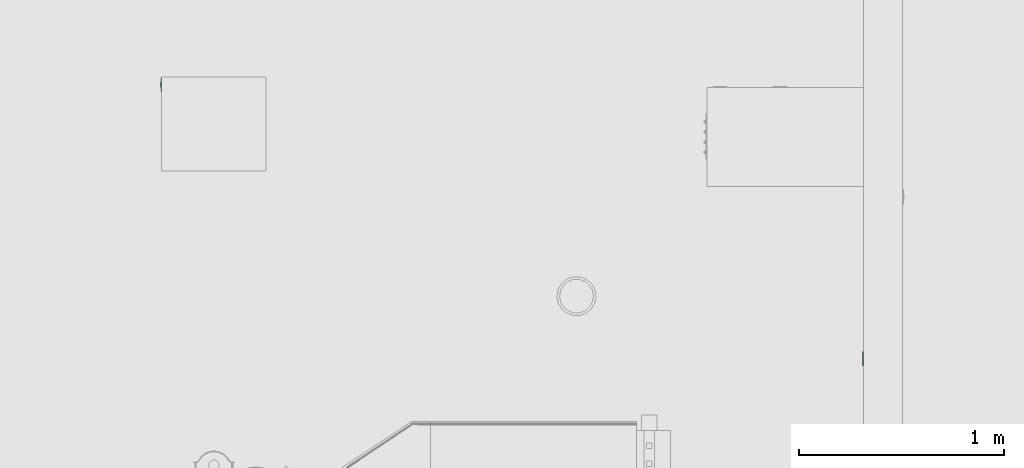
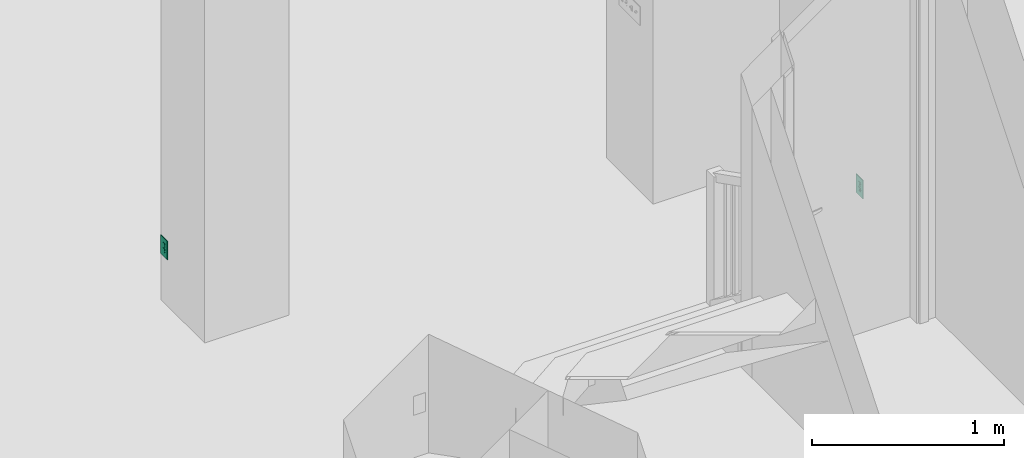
# One storey, part 6 of 48: 2 flow controllers.
"""IFC2X3 building model written with IfcOpenShell, lengths in inches."""

from ifc_helpers import new_model, entity, si_unit, converted_unit, derived_unit, money_unit, direction, frame, origin_with_axes, place, context, subcontext, project, spatial, faceted_brep, source, transform, mapped, type_object, element, save


model = new_model("IFC2X3")

# Units and contexts
model_context = context("Model", 3, precision=0.00039370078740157, world=origin_with_axes(), true_north=direction((0.0, 1.0)))
plan_context = context("Plan", 3, precision=0.00039370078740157, world=origin_with_axes(), true_north=direction((0.0, 1.0)))
body_context = subcontext(model_context, "Body", "Model", "MODEL_VIEW")
ifc_project = project(units=[converted_unit("LENGTHUNIT", "INCH", entity("IfcPositiveLengthMeasure", 0.0254), si_unit("LENGTHUNIT", "METRE"), dimensions=[1, 0, 0, 0, 0, 0, 0]), converted_unit("AREAUNIT", "SQUARE_FOOT", entity("IfcPositiveLengthMeasure", 0.09290304), si_unit("AREAUNIT", "SQUARE_METRE"), dimensions=[2, 0, 0, 0, 0, 0, 0]), si_unit("PLANEANGLEUNIT", "RADIAN"), si_unit("SOLIDANGLEUNIT", "STERADIAN"), money_unit("USD"), converted_unit("TIMEUNIT", "Year", entity("IfcTimeMeasure", 31557600.0), si_unit("TIMEUNIT", "SECOND"), dimensions=[0, 0, 1, 0, 0, 0, 0]), si_unit("MASSUNIT", "GRAM", prefix="KILO"), si_unit("THERMODYNAMICTEMPERATUREUNIT", "DEGREE_CELSIUS"), si_unit("LUMINOUSINTENSITYUNIT", "LUMEN"), si_unit("ENERGYUNIT", "JOULE", prefix="MEGA"), derived_unit("SPECIFICHEATCAPACITYUNIT", [(si_unit("ENERGYUNIT", "JOULE"), 1), (si_unit("MASSUNIT", "GRAM", prefix="KILO"), -1), (si_unit("THERMODYNAMICTEMPERATUREUNIT", "KELVIN"), -1)])], contexts=[model_context, plan_context])

# Site, building, storey
site_placement = place(None, origin_with_axes())
site = spatial("IfcSite", under=ifc_project, at=site_placement, Name="Site", CompositionType="ELEMENT")
building_placement = place(site_placement, origin_with_axes())
building = spatial("IfcBuilding", under=site, at=building_placement, Name="Building", CompositionType="ELEMENT")
storey_placement = place(building_placement, origin_with_axes())
storey = spatial("IfcBuildingStorey", under=building, at=storey_placement, Name="First Floor", CompositionType="ELEMENT", Elevation=0.0)

# Flow controllers
switching_device_type = type_object("IfcSwitchingDeviceType", Name="Outlet 1 US", PredefinedType="NOTDEFINED")
shared_shape = source(origin_with_axes(), body_context, "Body", "Brep", [
    faceted_brep([(0.39370078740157, -0.03444881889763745, -1.18110236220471), (0.5436477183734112, -0.03444881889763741, -0.7086614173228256), (0.5436477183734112, -0.2165354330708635, -0.7086614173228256), (0.39370078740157, -0.2165354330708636, -1.18110236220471), (-0.3937007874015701, -0.03444881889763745, -1.181102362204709), (-0.543647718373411, -0.03444881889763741, -0.7086614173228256), (-0.39370078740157, -0.03444881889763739, -0.2362204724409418), (0.3937007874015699, -0.03444881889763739, -0.2362204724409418), (-0.196850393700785, -0.03444881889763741, -0.7086614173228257), (-0.196850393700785, -0.0344488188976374, -0.4724409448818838), (-0.275590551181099, -0.0344488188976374, -0.4724409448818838), (-0.275590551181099, -0.03444881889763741, -0.7086614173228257), (0.196850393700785, -0.03444881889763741, -0.7086614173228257), (0.275590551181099, -0.03444881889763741, -0.7086614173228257), (0.275590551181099, -0.0344488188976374, -0.4724409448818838), (0.196850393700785, -0.0344488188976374, -0.4724409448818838), (-0.078740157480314, -0.03444881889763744, -1.102362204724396), (0.078740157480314, -0.03444881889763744, -1.102362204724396), (0.078740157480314, -0.03444881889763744, -1.023622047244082), (0.06819097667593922, -0.03444881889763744, -0.9842519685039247), (0.03937007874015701, -0.03444881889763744, -0.9554310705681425), (0.0, -0.03444881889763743, -0.9448818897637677), (-0.03937007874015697, -0.03444881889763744, -0.9554310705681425), (-0.06819097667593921, -0.03444881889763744, -0.9842519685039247), (-0.078740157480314, -0.03444881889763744, -1.023622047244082), (0.3937007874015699, -0.2165354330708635, -0.2362204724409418), (-0.39370078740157, -0.2165354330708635, -0.2362204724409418), (-0.543647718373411, -0.2165354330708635, -0.7086614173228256), (-0.3937007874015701, -0.2165354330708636, -1.181102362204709), (-0.196850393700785, -0.2165354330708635, -0.7086614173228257), (-0.275590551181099, -0.2165354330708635, -0.7086614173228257), (-0.275590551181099, -0.2165354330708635, -0.4724409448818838), (-0.196850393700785, -0.2165354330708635, -0.4724409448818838), (0.196850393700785, -0.2165354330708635, -0.7086614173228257), (0.196850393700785, -0.2165354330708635, -0.4724409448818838), (0.275590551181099, -0.2165354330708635, -0.4724409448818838), (0.275590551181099, -0.2165354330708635, -0.7086614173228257), (-0.078740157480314, -0.2165354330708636, -1.102362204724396), (-0.078740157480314, -0.2165354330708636, -1.023622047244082), (-0.06819097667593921, -0.2165354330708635, -0.9842519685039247), (-0.03937007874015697, -0.2165354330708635, -0.9554310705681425), (0.0, -0.2165354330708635, -0.9448818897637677), (0.03937007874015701, -0.2165354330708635, -0.9554310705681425), (0.06819097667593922, -0.2165354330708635, -0.9842519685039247), (0.078740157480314, -0.2165354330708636, -1.023622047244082), (0.078740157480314, -0.2165354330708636, -1.102362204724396)], [[[0, 1, 2, 3]], [[0, 4, 5, 6, 7, 1], [8, 9, 10, 11], [12, 13, 14, 15], [16, 17, 18, 19, 20, 21, 22, 23, 24]], [[1, 7, 25, 2]], [[3, 2, 25, 26, 27, 28], [29, 30, 31, 32], [33, 34, 35, 36], [37, 38, 39, 40, 41, 42, 43, 44, 45]], [[4, 0, 3, 28]], [[5, 4, 28, 27]], [[6, 5, 27, 26]], [[7, 6, 26, 25]], [[9, 8, 29, 32]], [[10, 9, 32, 31]], [[11, 10, 31, 30]], [[8, 11, 30, 29]], [[13, 12, 33, 36]], [[14, 13, 36, 35]], [[15, 14, 35, 34]], [[12, 15, 34, 33]], [[17, 16, 37, 45]], [[18, 17, 45, 44]], [[19, 18, 44, 43]], [[20, 19, 43, 42]], [[21, 20, 42, 41]], [[22, 21, 41, 40]], [[23, 22, 40, 39]], [[24, 23, 39, 38]], [[16, 24, 38, 37]]]),
    faceted_brep([(0.39370078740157, -0.03444881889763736, 0.2362204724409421), (0.5436477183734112, -0.03444881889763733, 0.7086614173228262), (0.5436477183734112, -0.2165354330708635, 0.7086614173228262), (0.39370078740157, -0.2165354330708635, 0.2362204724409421), (-0.3937007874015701, -0.03444881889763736, 0.2362204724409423), (-0.543647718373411, -0.03444881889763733, 0.7086614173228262), (-0.39370078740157, -0.0344488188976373, 1.18110236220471), (0.3937007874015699, -0.0344488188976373, 1.18110236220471), (-0.196850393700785, -0.03444881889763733, 0.7086614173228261), (-0.196850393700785, -0.03444881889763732, 0.944881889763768), (-0.275590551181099, -0.03444881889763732, 0.944881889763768), (-0.275590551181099, -0.03444881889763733, 0.7086614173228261), (0.196850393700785, -0.03444881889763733, 0.7086614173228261), (0.275590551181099, -0.03444881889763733, 0.7086614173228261), (0.275590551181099, -0.03444881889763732, 0.944881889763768), (0.196850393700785, -0.03444881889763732, 0.944881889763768), (-0.078740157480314, -0.03444881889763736, 0.3149606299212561), (0.078740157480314, -0.03444881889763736, 0.3149606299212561), (0.078740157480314, -0.03444881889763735, 0.3937007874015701), (0.06819097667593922, -0.03444881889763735, 0.4330708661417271), (0.03937007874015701, -0.03444881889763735, 0.4618917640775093), (0.0, -0.03444881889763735, 0.472440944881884), (-0.03937007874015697, -0.03444881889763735, 0.4618917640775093), (-0.06819097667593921, -0.03444881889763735, 0.4330708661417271), (-0.078740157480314, -0.03444881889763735, 0.3937007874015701), (0.3937007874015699, -0.2165354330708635, 1.18110236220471), (-0.39370078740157, -0.2165354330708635, 1.18110236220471), (-0.543647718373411, -0.2165354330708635, 0.7086614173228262), (-0.3937007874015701, -0.2165354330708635, 0.2362204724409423), (-0.196850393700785, -0.2165354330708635, 0.7086614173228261), (-0.275590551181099, -0.2165354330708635, 0.7086614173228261), (-0.275590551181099, -0.2165354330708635, 0.944881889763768), (-0.196850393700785, -0.2165354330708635, 0.944881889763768), (0.196850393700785, -0.2165354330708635, 0.7086614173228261), (0.196850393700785, -0.2165354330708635, 0.944881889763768), (0.275590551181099, -0.2165354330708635, 0.944881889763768), (0.275590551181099, -0.2165354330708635, 0.7086614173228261), (-0.078740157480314, -0.2165354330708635, 0.3149606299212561), (-0.078740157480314, -0.2165354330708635, 0.3937007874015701), (-0.06819097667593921, -0.2165354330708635, 0.4330708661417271), (-0.03937007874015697, -0.2165354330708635, 0.4618917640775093), (0.0, -0.2165354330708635, 0.472440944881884), (0.03937007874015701, -0.2165354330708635, 0.4618917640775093), (0.06819097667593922, -0.2165354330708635, 0.4330708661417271), (0.078740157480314, -0.2165354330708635, 0.3937007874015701), (0.078740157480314, -0.2165354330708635, 0.3149606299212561)], [[[0, 1, 2, 3]], [[0, 4, 5, 6, 7, 1], [8, 9, 10, 11], [12, 13, 14, 15], [16, 17, 18, 19, 20, 21, 22, 23, 24]], [[1, 7, 25, 2]], [[3, 2, 25, 26, 27, 28], [29, 30, 31, 32], [33, 34, 35, 36], [37, 38, 39, 40, 41, 42, 43, 44, 45]], [[4, 0, 3, 28]], [[5, 4, 28, 27]], [[6, 5, 27, 26]], [[7, 6, 26, 25]], [[9, 8, 29, 32]], [[10, 9, 32, 31]], [[11, 10, 31, 30]], [[8, 11, 30, 29]], [[13, 12, 33, 36]], [[14, 13, 36, 35]], [[15, 14, 35, 34]], [[12, 15, 34, 33]], [[17, 16, 37, 45]], [[18, 17, 45, 44]], [[19, 18, 44, 43]], [[20, 19, 43, 42]], [[21, 20, 42, 41]], [[22, 21, 41, 40]], [[23, 22, 40, 39]], [[24, 23, 39, 38]], [[16, 24, 38, 37]]]),
    faceted_brep([(-1.343503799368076, -0.1377952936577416, -2.327755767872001), (1.343503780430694, -0.1377952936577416, -2.327755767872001), (1.343503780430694, -0.1377952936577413, 2.327755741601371), (-1.343503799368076, -0.1377952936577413, 2.327755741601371), (0.39370078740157, -0.1377952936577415, -1.18110236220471), (-0.3937007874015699, -0.1377952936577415, -1.181102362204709), (-0.5436477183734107, -0.1377952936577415, -0.7086614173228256), (-0.39370078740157, -0.1377952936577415, -0.2362204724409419), (0.3937007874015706, -0.1377952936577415, -0.2362204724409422), (0.5436477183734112, -0.1377952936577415, -0.7086614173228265), (-0.39370078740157, -0.1377952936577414, 1.18110236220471), (0.3937007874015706, -0.1377952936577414, 1.18110236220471), (0.5436477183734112, -0.1377952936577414, 0.7086614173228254), (0.39370078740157, -0.1377952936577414, 0.236220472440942), (-0.3937007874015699, -0.1377952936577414, 0.2362204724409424), (-0.5436477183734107, -0.1377952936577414, 0.7086614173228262), (-1.352419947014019, -0.1366214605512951, -2.336671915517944), (1.352419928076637, -0.1366214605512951, -2.336671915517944), (1.352419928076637, -0.1366214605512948, 2.336671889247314), (-1.352419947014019, -0.1366214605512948, 2.336671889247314), (0.39370078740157, -0.03444881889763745, -1.18110236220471), (-0.3937007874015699, -0.03444881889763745, -1.181102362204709), (-0.5436477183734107, -0.03444881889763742, -0.7086614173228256), (-0.39370078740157, -0.03444881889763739, -0.2362204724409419), (0.3937007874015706, -0.03444881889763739, -0.2362204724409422), (0.5436477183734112, -0.03444881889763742, -0.7086614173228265), (-0.39370078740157, -0.0344488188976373, 1.18110236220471), (0.3937007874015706, -0.0344488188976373, 1.18110236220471), (0.5436477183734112, -0.03444881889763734, 0.7086614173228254), (0.39370078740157, -0.03444881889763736, 0.236220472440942), (-0.3937007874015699, -0.03444881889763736, 0.2362204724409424), (-0.5436477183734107, -0.03444881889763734, 0.7086614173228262), (-1.36786294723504, -0.1277054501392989, -2.352114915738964), (1.367862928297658, -0.1277054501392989, -2.352114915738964), (1.367862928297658, -0.1277054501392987, 2.352114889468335), (-1.36786294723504, -0.1277054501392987, 2.352114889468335), (-1.376778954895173, -0.1122624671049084, -2.361030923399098), (1.376778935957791, -0.1122624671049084, -2.361030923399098), (1.376778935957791, -0.1122624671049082, 2.361030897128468), (-1.376778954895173, -0.1122624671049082, 2.361030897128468), (-1.377952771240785, -0.1033464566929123, -2.362204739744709), (1.377952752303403, -0.1033464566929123, -2.362204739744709), (1.377952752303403, -0.103346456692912, 2.36220471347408), (-1.377952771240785, -0.103346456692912, 2.36220471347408), (-1.377952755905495, 0.0, -2.36220472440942), (1.377952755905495, 0.0, -2.36220472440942), (1.377952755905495, 0.0, 2.36220472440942), (-1.377952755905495, 0.0, 2.36220472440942)], [[[0, 1, 2, 3], [4, 5, 6, 7, 8, 9], [10, 11, 12, 13, 14, 15]], [[1, 0, 16, 17]], [[2, 1, 17, 18]], [[3, 2, 18, 19]], [[0, 3, 19, 16]], [[4, 20, 21, 5]], [[5, 21, 22, 6]], [[6, 22, 23, 7]], [[7, 23, 24, 8]], [[8, 24, 25, 9]], [[9, 25, 20, 4]], [[11, 10, 26, 27]], [[12, 11, 27, 28]], [[13, 12, 28, 29]], [[14, 13, 29, 30]], [[15, 14, 30, 31]], [[10, 15, 31, 26]], [[17, 16, 32, 33]], [[18, 17, 33, 34]], [[19, 18, 34, 35]], [[16, 19, 35, 32]], [[22, 21, 20, 25, 24, 23]], [[28, 27, 26, 31, 30, 29]], [[33, 32, 36, 37]], [[34, 33, 37, 38]], [[35, 34, 38, 39]], [[32, 35, 39, 36]], [[37, 36, 40, 41]], [[38, 37, 41, 42]], [[39, 38, 42, 43]], [[36, 39, 43, 40]], [[41, 40, 44, 45]], [[42, 41, 45, 46]], [[43, 42, 46, 47]], [[40, 43, 47, 44]], [[46, 45, 44, 47]]]),
])
for number, where, z_axis, x_axis, name in (
    (1, (244.4999999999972, 158.4999999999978, 13.99999999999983), (0.0, 0.0, 1.0), (0.0, -1.0, 0.0), "FU - 029"),
    (2, (109.9999999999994, 210.9936648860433, 13.99999999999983), (0.0, 0.0, 1.0), (0.0, -1.0, 0.0), "FU - 029"),
):
    element("IfcFlowController", number, at=place(storey_placement, frame(where, z_axis=z_axis, x_axis=x_axis)), inside=storey, type_object=switching_device_type, Name=name, context=body_context, shape_type="MappedRepresentation", body=[
        mapped(shared_shape, transform((0.0, 0.0, 0.0))),
    ])

save(model, "model.ifc")
